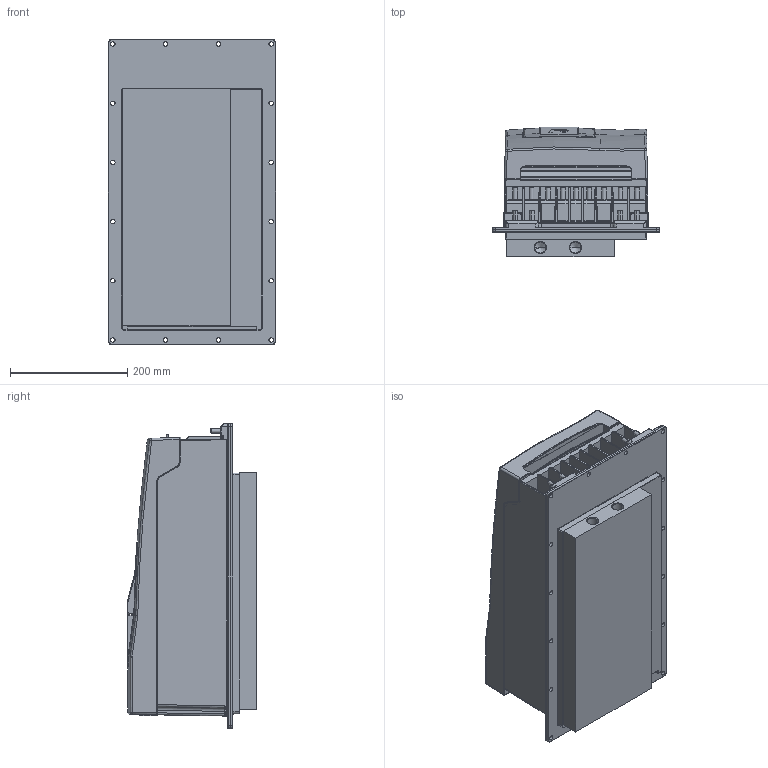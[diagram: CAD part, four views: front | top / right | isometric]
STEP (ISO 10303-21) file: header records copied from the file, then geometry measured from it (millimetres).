
FILE_DESCRIPTION (( 'STEP AP214' ), '1' );
FILE_NAME ('K.STEP', '2023-04-11T13:14:19', ( '' ), ( '' ), 'SwSTEP 2.0', 'SolidWorks 2022', '' );
FILE_SCHEMA (( 'AUTOMOTIVE_DESIGN' ));
Length unit declared in the file: millimetre
Products named in the file (13): Kundenmodell^10061997_000; K; Kundenmodell^10061793_000; 10061793_000_Deckelbaugruppe F6-6 (Kundenmodell); Kundenmodell^10035735_000; 10027052_000_Gehäusebaugruppe F6-6 (Kundenmodell); 10061997_000_Leistungsteil F6-6 TK5 (Kundenmodell); 10059764_000_Blindabdeckung (Kundenmodell); Kundenmodell^10059764_000; Kundemmodell^10027377_000; Kundenmodell^10027052_000; 10035735_000_Kundenmodell; 10027377_000_Kundenmodell
Assembly tree (12 placements, depth 4):
  K
    10061997_000_Leistungsteil F6-6 TK5 (Kundenmodell)
      10027377_000_Kundenmodell
        Kundemmodell^10027377_000
      Kundenmodell^10061997_000
    10027052_000_Gehäusebaugruppe F6-6 (Kundenmodell)
      10061793_000_Deckelbaugruppe F6-6 (Kundenmodell)
        Kundenmodell^10061793_000
      Kundenmodell^10027052_000
    10035735_000_Kundenmodell
      10059764_000_Blindabdeckung (Kundenmodell)
        Kundenmodell^10059764_000
      Kundenmodell^10035735_000
Bounding box: 285 x 221.46 x 520 mm (x, y, z)
Volume: 21326622.7 mm3; surface area: 1290847.7 mm2
Topology: 13 solids, 27 shells, 3021 faces, 7631 edges, 4584 vertices
Faces by surface type: cylinder 1100, plane 982, bspline 611, torus 112, cone 110, sphere 106
Entity records: 102176 total; most frequent: CARTESIAN_POINT 35181, ORIENTED_EDGE 14948, DIRECTION 12790, EDGE_CURVE 7474, AXIS2_PLACEMENT_3D 4607, VERTEX_POINT 4582, LINE 3576, VECTOR 3576
